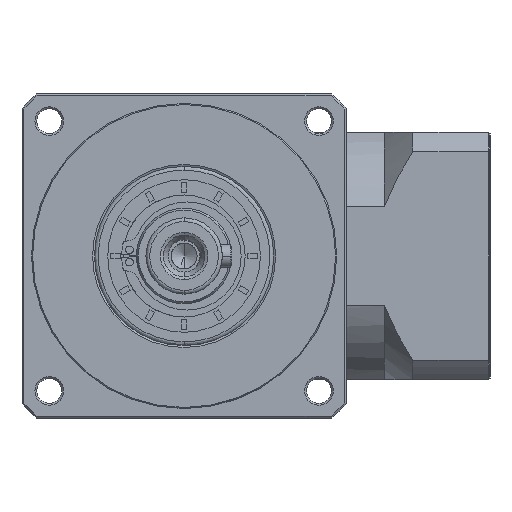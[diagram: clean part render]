
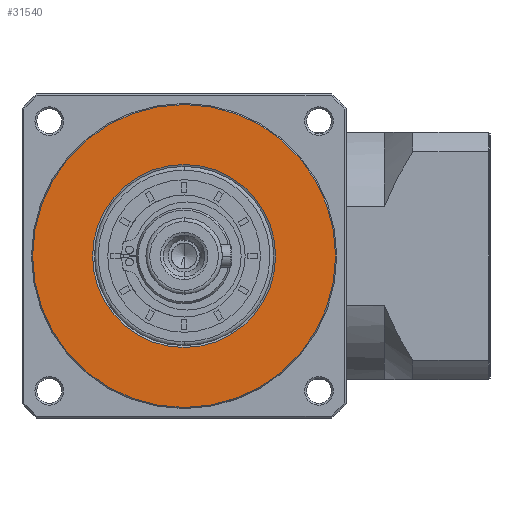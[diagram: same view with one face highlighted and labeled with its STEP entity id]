
A CAD part, left-side view. The second image highlights one B-rep face of the part: STEP entity #31540.
In plain terms, the highlighted planar face has unit normal (-1, 0, 0).
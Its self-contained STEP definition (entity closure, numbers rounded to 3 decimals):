
#369 = DIRECTION ( 'NONE',  ( 0., 0., -1. ) ) ;
#5909 = EDGE_CURVE ( 'NONE', #102149, #8568, #41051, .T. ) ;
#8380 = DIRECTION ( 'NONE',  ( 1., 0., 0. ) ) ;
#8568 = VERTEX_POINT ( 'NONE', #114655 ) ;
#14144 = CARTESIAN_POINT ( 'NONE',  ( -156.602, 20.136, -107.407 ) ) ;
#15199 = DIRECTION ( 'NONE',  ( 1., 0., 0. ) ) ;
#15861 = DIRECTION ( 'NONE',  ( 1., 0., 0. ) ) ;
#21881 = CARTESIAN_POINT ( 'NONE',  ( -156.602, -19.575, -107.407 ) ) ;
#23832 = CIRCLE ( 'NONE', #86705, 39.711 ) ;
#31540 = ADVANCED_FACE ( 'NONE', ( #158785, #167418 ), #110113, .T. ) ;
#31586 = ORIENTED_EDGE ( 'NONE', *, *, #64405, .F. ) ;
#35713 = DIRECTION ( 'NONE',  ( 0., 1., 0. ) ) ;
#41051 = CIRCLE ( 'NONE', #84641, 24. ) ;
#54390 = AXIS2_PLACEMENT_3D ( 'NONE', #21881, #118376, #35713 ) ;
#64405 = EDGE_CURVE ( 'NONE', #97207, #130019, #104478, .T. ) ;
#79317 = AXIS2_PLACEMENT_3D ( 'NONE', #165507, #83065, #369 ) ;
#79644 = AXIS2_PLACEMENT_3D ( 'NONE', #98516, #15861, #112310 ) ;
#81676 = CARTESIAN_POINT ( 'NONE',  ( -156.602, -59.286, -107.407 ) ) ;
#82040 = CIRCLE ( 'NONE', #79644, 24. ) ;
#83065 = DIRECTION ( 'NONE',  ( -1., 0., 0. ) ) ;
#84641 = AXIS2_PLACEMENT_3D ( 'NONE', #97846, #15199, #111674 ) ;
#86705 = AXIS2_PLACEMENT_3D ( 'NONE', #91023, #8380, #104871 ) ;
#91023 = CARTESIAN_POINT ( 'NONE',  ( -156.602, -19.575, -107.407 ) ) ;
#93452 = ORIENTED_EDGE ( 'NONE', *, *, #135437, .F. ) ;
#97207 = VERTEX_POINT ( 'NONE', #14144 ) ;
#97846 = CARTESIAN_POINT ( 'NONE',  ( -156.602, -19.575, -107.407 ) ) ;
#98516 = CARTESIAN_POINT ( 'NONE',  ( -156.602, -19.575, -107.407 ) ) ;
#102149 = VERTEX_POINT ( 'NONE', #107189 ) ;
#104478 = CIRCLE ( 'NONE', #54390, 39.711 ) ;
#104871 = DIRECTION ( 'NONE',  ( 0., 1., 0. ) ) ;
#107189 = CARTESIAN_POINT ( 'NONE',  ( -156.602, -19.575, -131.407 ) ) ;
#110113 = PLANE ( 'NONE',  #79317 ) ;
#111567 = ORIENTED_EDGE ( 'NONE', *, *, #144357, .T. ) ;
#111674 = DIRECTION ( 'NONE',  ( 0., 0., -1. ) ) ;
#112310 = DIRECTION ( 'NONE',  ( 0., 0., -1. ) ) ;
#114655 = CARTESIAN_POINT ( 'NONE',  ( -156.602, -19.575, -83.407 ) ) ;
#118376 = DIRECTION ( 'NONE',  ( 1., 0., 0. ) ) ;
#123000 = EDGE_LOOP ( 'NONE', ( #31586, #93452 ) ) ;
#130019 = VERTEX_POINT ( 'NONE', #81676 ) ;
#135437 = EDGE_CURVE ( 'NONE', #130019, #97207, #23832, .T. ) ;
#144357 = EDGE_CURVE ( 'NONE', #8568, #102149, #82040, .T. ) ;
#152281 = EDGE_LOOP ( 'NONE', ( #174970, #111567 ) ) ;
#158785 = FACE_OUTER_BOUND ( 'NONE', #123000, .T. ) ;
#165507 = CARTESIAN_POINT ( 'NONE',  ( -156.602, -19.575, -107.407 ) ) ;
#167418 = FACE_BOUND ( 'NONE', #152281, .T. ) ;
#174970 = ORIENTED_EDGE ( 'NONE', *, *, #5909, .T. ) ;
